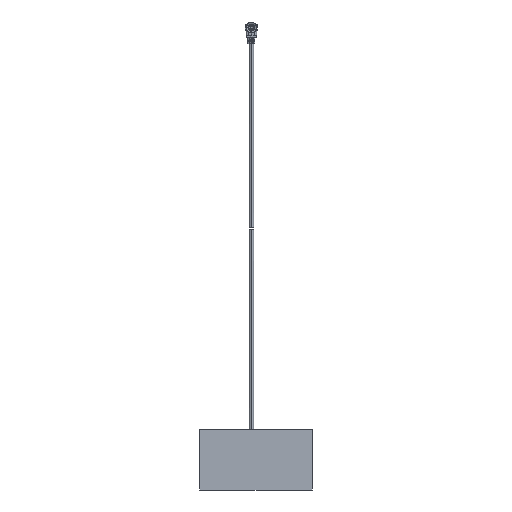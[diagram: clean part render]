
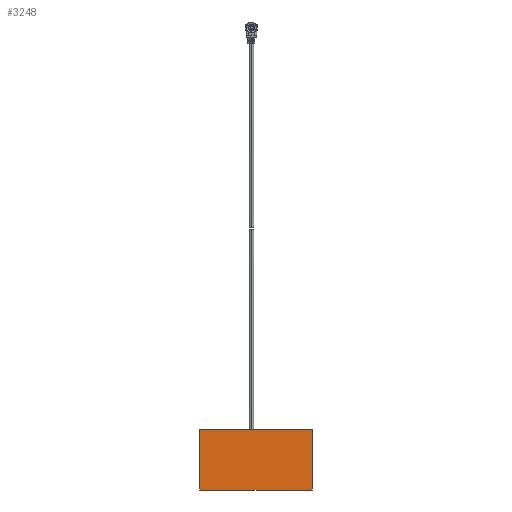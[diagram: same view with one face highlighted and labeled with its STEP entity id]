
A CAD part, front view. The second image highlights one B-rep face of the part: STEP entity #3248.
In plain terms, the highlighted planar face has unit normal (0, -1, 0).
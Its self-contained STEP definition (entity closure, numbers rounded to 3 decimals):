
#1=DIRECTION('',(0.,0.,1.));
#2=VECTOR('',#1,15.);
#3=CARTESIAN_POINT('',(0.,0.,0.));
#4=LINE('',#3,#2);
#5=DIRECTION('',(-1.,0.,0.));
#6=VECTOR('',#5,28.);
#7=CARTESIAN_POINT('',(28.,0.,0.));
#8=LINE('',#7,#6);
#13=DIRECTION('',(0.,0.,-1.));
#14=VECTOR('',#13,15.);
#15=CARTESIAN_POINT('',(28.,0.,15.));
#16=LINE('',#15,#14);
#30=DIRECTION('',(1.,0.,0.));
#31=VECTOR('',#30,28.);
#32=CARTESIAN_POINT('',(0.,0.,15.));
#33=LINE('',#32,#31);
#2546=CARTESIAN_POINT('',(0.,0.,0.));
#2547=CARTESIAN_POINT('',(0.,0.,15.));
#2548=VERTEX_POINT('',#2546);
#2549=VERTEX_POINT('',#2547);
#2550=CARTESIAN_POINT('',(28.,0.,0.));
#2551=VERTEX_POINT('',#2550);
#2552=CARTESIAN_POINT('',(28.,0.,15.));
#2553=VERTEX_POINT('',#2552);
#3233=CARTESIAN_POINT('',(14.,0.,7.5));
#3234=DIRECTION('',(0.,1.,0.));
#3235=DIRECTION('',(1.,0.,0.));
#3236=AXIS2_PLACEMENT_3D('',#3233,#3234,#3235);
#3237=PLANE('',#3236);
#3239=ORIENTED_EDGE('',*,*,#3238,.T.);
#3241=ORIENTED_EDGE('',*,*,#3240,.T.);
#3243=ORIENTED_EDGE('',*,*,#3242,.T.);
#3245=ORIENTED_EDGE('',*,*,#3244,.T.);
#3246=EDGE_LOOP('',(#3239,#3241,#3243,#3245));
#3247=FACE_OUTER_BOUND('',#3246,.F.);
#3248=ADVANCED_FACE('',(#3247),#3237,.F.);
#3238=EDGE_CURVE('',#2548,#2549,#4,.T.);
#3240=EDGE_CURVE('',#2549,#2553,#33,.T.);
#3242=EDGE_CURVE('',#2553,#2551,#16,.T.);
#3244=EDGE_CURVE('',#2551,#2548,#8,.T.);
